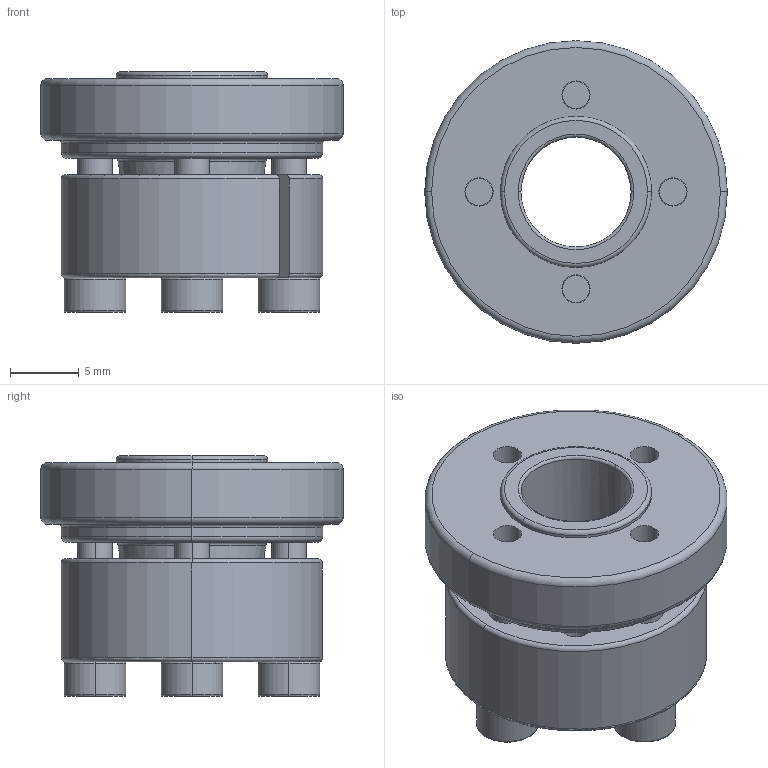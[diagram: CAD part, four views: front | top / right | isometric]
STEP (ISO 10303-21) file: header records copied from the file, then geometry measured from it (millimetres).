
FILE_DESCRIPTION (( 'STEP AP203' ), '1' );
FILE_NAME ('SAPC-8-19-ASS''Y.STEP', '2013-07-24T05:29:26', ( 'MYCOM' ), ( '' ), 'SwSTEP 2.0', 'SolidWorks 2012', '' );
FILE_SCHEMA (( 'CONFIG_CONTROL_DESIGN' ));
Length unit declared in the file: millimetre
Products named in the file (1): SAPC-8-19-ASS''Y
Bounding box: 22 x 22 x 17.5 mm (x, y, z)
Volume: 3572.9 mm3; surface area: 3555.9 mm2
Topology: 1 solids, 1 shells, 219 faces, 513 edges, 300 vertices
Faces by surface type: plane 80, torus 61, cylinder 57, cone 21
Entity records: 6401 total; most frequent: CARTESIAN_POINT 1211, DIRECTION 1176, ORIENTED_EDGE 1010, EDGE_CURVE 505, AXIS2_PLACEMENT_3D 487, VERTEX_POINT 300, CIRCLE 267, EDGE_LOOP 243
